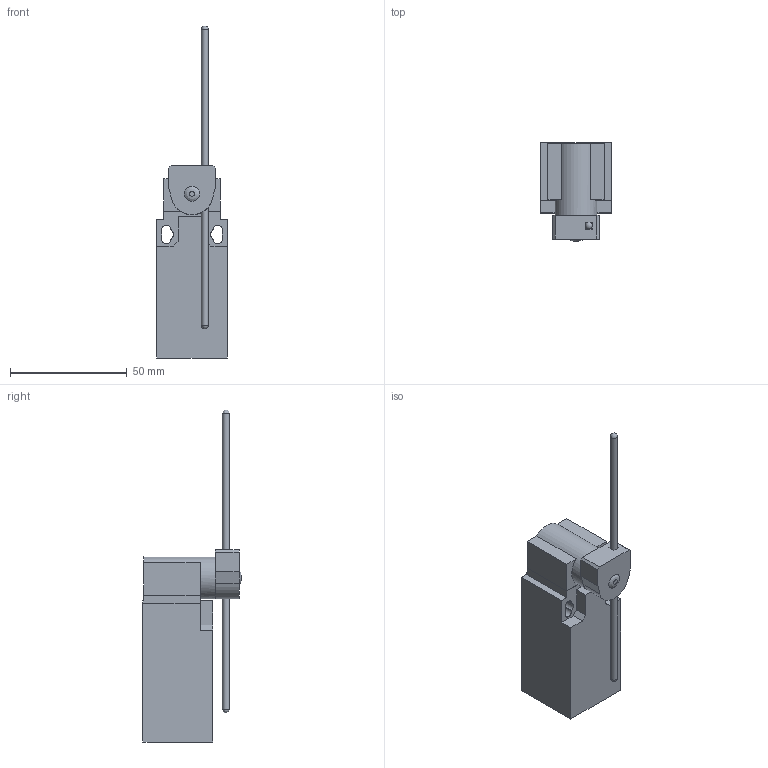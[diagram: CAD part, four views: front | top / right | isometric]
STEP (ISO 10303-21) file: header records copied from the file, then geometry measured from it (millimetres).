
FILE_DESCRIPTION((''),'2;1');
FILE_NAME('D:\Documenti_D\Corrispondenza\Comepi\Catalogo da fare\Modelli Nov 2011\AP\STEP\AP1-T71.iam.stp','2011-11-17T11:45:10',(''),(''),'Autodesk Inventor 2010','Autodesk Inventor 2010','');
FILE_SCHEMA(('AUTOMOTIVE_DESIGN { 1 0 10303 214 1 1 1 1 }'));
Length unit declared in the file: millimetre
Products named in the file (6): AP1-T71; AP1; T71.iam; T71_1; T71_2; T71_3
Assembly tree (5 placements, depth 3):
  AP1-T71
    AP1
    T71.iam
      T71_1
      T71_2
      T71_3
Bounding box: 30.3 x 42.1 x 142.49 mm (x, y, z)
Volume: 63780.2 mm3; surface area: 17019.2 mm2
Topology: 4 solids, 4 shells, 64 faces, 169 edges, 111 vertices
Faces by surface type: plane 51, cylinder 10, sphere 2, bspline 1
Full cylindrical faces by diameter (mm): 3 x1, 18 x1, 20.4 x1
Entity records: 2103 total; most frequent: CARTESIAN_POINT 361, DIRECTION 330, ORIENTED_EDGE 310, EDGE_CURVE 155, VECTOR 128, LINE 128, VERTEX_POINT 105, AXIS2_PLACEMENT_3D 101
